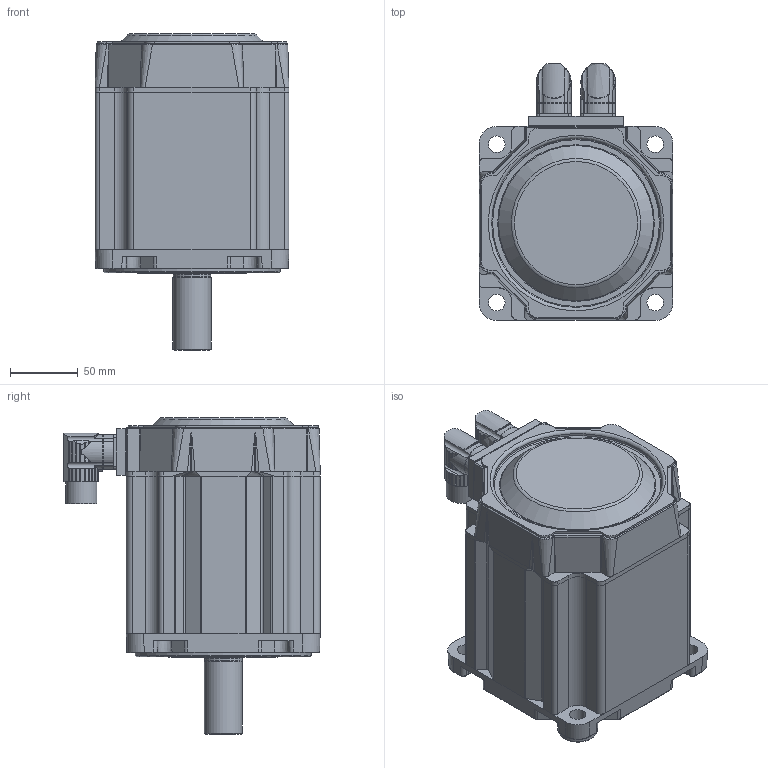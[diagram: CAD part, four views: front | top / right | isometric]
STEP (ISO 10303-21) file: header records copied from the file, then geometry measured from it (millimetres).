
FILE_DESCRIPTION((''),'2;1');
FILE_NAME('C:\CAD_work\Dummy_Modeling_Project_02-12-05\3D MODELS\MPP1422XXX_NPSN.stp','2005-12-20T17:25:18',('jevans'),(''),'Autodesk Inventor 10','Autodesk Inventor 10','');
FILE_SCHEMA(('AUTOMOTIVE_DESIGN { 1 0 10303 214 1 1 1 1 }'));
Length unit declared in the file: inch
Products named in the file (1): MPP142_MOTOR
Bounding box: 142.75 x 188.8 x 232.92 mm (x, y, z)
Volume: 2980384.6 mm3; surface area: 205810.9 mm2
Topology: 3 solids, 3 shells, 905 faces, 2284 edges, 1422 vertices
Faces by surface type: bspline 336, cylinder 287, plane 224, cone 35, torus 21, sphere 2
Full cylindrical faces by diameter (mm): 1.143 x17, 2.032 x6, 2.794 x2, 19.05 x1, 19.685 x1, 22.86 x1, 27.645 x1, 28.001 x1, 29.921 x1, 29.997 x1, 36.83 x1, 55.88 x1, 66.04 x1, 71.526 x1, 72.009 x1, 72.034 x2, 76.352 x1, 80.95 x1, 124.46 x1, 129.997 x1
Entity records: 37230 total; most frequent: CARTESIAN_POINT 17766, ORIENTED_EDGE 4334, DIRECTION 3475, EDGE_CURVE 2167, VERTEX_POINT 1398, AXIS2_PLACEMENT_3D 1344, EDGE_LOOP 1053, FACE_OUTER_BOUND 905
